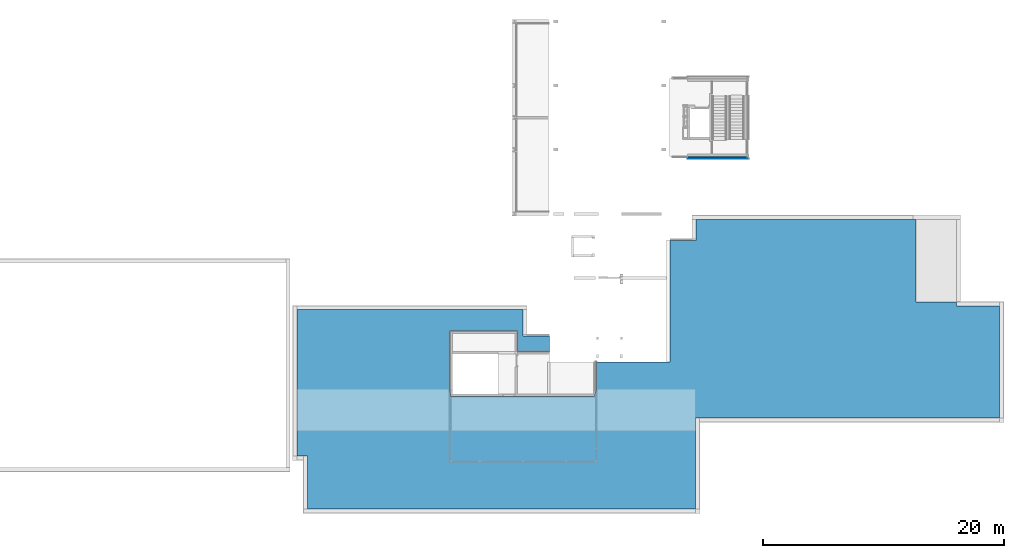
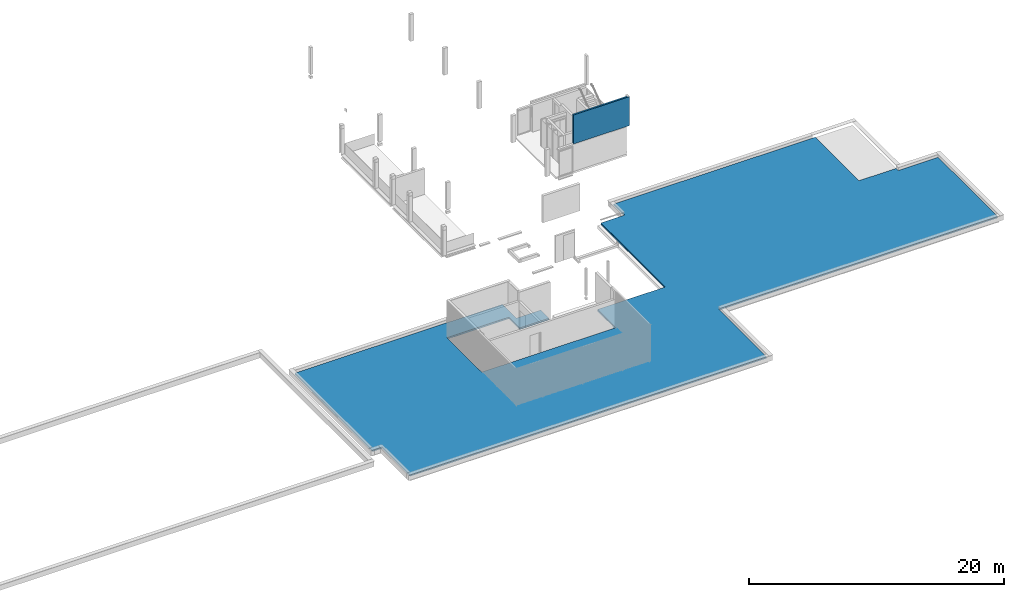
# One storey, part 9 of 22: 6 building element parts, 2 elements without a shape of their own.
"""IFC2X3 building model written with IfcOpenShell, lengths in millimetres."""

from ifc_helpers import new_model, entity, si_unit, converted_unit, derived_unit, money_unit, direction, frame, origin_with_axes, place, context, subcontext, project, spatial, faceted_brep, material, type_object, element, aggregate, save


model = new_model("IFC2X3")

# Units and contexts
model_context = context("Model", 3, precision=0.01, world=origin_with_axes(), true_north=direction((0.0, 1.0)))
body_context = subcontext(model_context, "Body", "Model", "MODEL_VIEW")
ifc_project = project(units=[si_unit("LENGTHUNIT", "METRE", prefix="MILLI"), si_unit("AREAUNIT", "SQUARE_METRE"), si_unit("VOLUMEUNIT", "CUBIC_METRE"), converted_unit("PLANEANGLEUNIT", "DEGREE", entity("IfcPlaneAngleMeasure", 0.0174532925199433), si_unit("PLANEANGLEUNIT", "RADIAN"), dimensions=[0, 0, 0, 0, 0, 0, 0]), money_unit("EUR"), converted_unit("TIMEUNIT", "Year", entity("IfcTimeMeasure", 31557600.0), si_unit("TIMEUNIT", "SECOND"), dimensions=[0, 0, 1, 0, 0, 0, 0]), si_unit("MASSUNIT", "GRAM", prefix="KILO"), si_unit("THERMODYNAMICTEMPERATUREUNIT", "DEGREE_CELSIUS"), si_unit("LUMINOUSINTENSITYUNIT", "LUMEN"), si_unit("ENERGYUNIT", "JOULE", prefix="MEGA"), derived_unit("THERMALCONDUCTANCEUNIT", [(si_unit("POWERUNIT", "WATT"), 1), (si_unit("LENGTHUNIT", "METRE"), -1), (si_unit("THERMODYNAMICTEMPERATUREUNIT", "KELVIN"), -1)]), derived_unit("SPECIFICHEATCAPACITYUNIT", [(si_unit("ENERGYUNIT", "JOULE"), 1), (si_unit("MASSUNIT", "GRAM", prefix="KILO"), -1), (si_unit("THERMODYNAMICTEMPERATUREUNIT", "KELVIN"), -1)]), derived_unit("MASSDENSITYUNIT", [(si_unit("MASSUNIT", "GRAM", prefix="KILO"), 1), (si_unit("VOLUMEUNIT", "CUBIC_METRE"), -1)])], contexts=[model_context])

# Site, building, storey
site_placement = place(None, origin_with_axes())
site = spatial("IfcSite", under=ifc_project, at=site_placement, Name="Site", CompositionType="ELEMENT")
building_placement = place(site_placement, origin_with_axes())
building = spatial("IfcBuilding", under=site, at=building_placement, Name="Naam gebouw", CompositionType="ELEMENT")
storey_placement = place(building_placement, frame((0.0, 0.0, 11150.0), z_axis=(0.0, 0.0, 1.0), x_axis=(1.0, 0.0, 0.0)))
storey = spatial("IfcBuildingStorey", under=building, at=storey_placement, Name="3e verdieping/dak N", CompositionType="ELEMENT", Elevation=11150.0)

# Slab, building element parts
slab_type = type_object("IfcSlabType", Name="Isolatie platdak 154", PredefinedType="NOTDEFINED")
slab_placement = place(storey_placement, frame((-770.0761052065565, 7835.77984223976, 153.9999999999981), z_axis=(0.0, 0.0, 1.0), x_axis=(1.0, 0.0, 0.0)))
slab = element("IfcSlab", 1, at=slab_placement, inside=storey, type_object=slab_type, Name="_Vloer-x", PredefinedType="NOTDEFINED")
ifc_material_1 = material(Name="Isolatie - Kunststof hard")
building_element_part_1_placement = place(slab_placement, origin_with_axes())
building_element_part_1 = element("IfcBuildingElementPart", 2, at=building_element_part_1_placement, material=ifc_material_1, Name="Isolatie - Kunststof hard", context=body_context, shape_type="Brep", body=[
    faceted_brep([(870.0761530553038, 0.0, -152.000000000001), (870.0761530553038, 0.0, -2.000000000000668), (0.0, 0.0, -2.000000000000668), (0.0, 0.0, -152.000000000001), (870.076153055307, -4389.86786879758, -152.000000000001), (870.076153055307, -4389.86786879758, -2.000000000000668), (22370.07610520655, -4389.86786879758, -2.000000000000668), (26185.07610633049, -4389.86786879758, -2.000000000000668), (33115.54636528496, -4389.86786879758, -2.000000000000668), (33115.54636528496, 1445.558531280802, -2.000000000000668), (33115.54636528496, 3155.132582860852, -2.000000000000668), (34080.42375593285, 3155.132582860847, -2.000000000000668), (58370.07610520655, 3155.132582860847, -2.000000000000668), (58370.07610520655, 12490.13258286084, -2.000000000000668), (54770.07610520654, 12490.13258286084, -2.000000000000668), (54770.07610520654, 12820.13258286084, -2.000000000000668), (51410.07610520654, 12820.13258286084, -2.000000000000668), (51410.07610520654, 19670.13258286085, -2.000000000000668), (33170.07610520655, 19670.13258286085, -2.000000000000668), (33170.07610520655, 17925.11718383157, -2.000000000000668), (32920.07610520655, 17925.11718383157, -2.000000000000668), (31006.07610520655, 17925.11718383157, -2.000000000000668), (31006.07610520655, 7835.132582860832, -2.000000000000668), (24870.01582028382, 7835.132582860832, -2.000000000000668), (24870.01582028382, 5454.338672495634, -2.000000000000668), (24645.01186344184, 4958.82819740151, -2.000000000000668), (12751.98655807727, 4958.828197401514, -2.000000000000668), (12727.81587903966, 5830.85009434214, -2.000000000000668), (12727.81587903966, 10380.13258286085, -2.000000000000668), (18327.81587903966, 10380.13258286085, -2.000000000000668), (18327.81587903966, 8680.132582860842, -2.000000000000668), (20976.07610520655, 8680.132582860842, -2.000000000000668), (20976.07610520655, 9988.971384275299, -2.000000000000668), (18770.07439202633, 9988.971384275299, -2.000000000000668), (18770.07439202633, 12160.03535665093, -2.000000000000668), (0.0, 12160.03535665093, -2.000000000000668), (0.0, 12160.03535665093, -152.000000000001), (18770.07439202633, 12160.03535665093, -152.000000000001), (18770.07439202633, 9988.971384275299, -152.000000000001), (20976.07610520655, 9988.971384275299, -152.000000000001), (20976.07610520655, 8680.132582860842, -152.000000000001), (18327.81587903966, 8680.132582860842, -152.000000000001), (18327.81587903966, 10380.13258286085, -152.000000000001), (12727.81587903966, 10380.13258286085, -152.000000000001), (12727.81587903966, 5830.85009434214, -152.000000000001), (12751.98655807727, 4958.828197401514, -152.000000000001), (24645.01186344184, 4958.82819740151, -152.000000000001), (24870.01582028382, 5454.338672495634, -152.000000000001), (24870.01582028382, 7835.132582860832, -152.000000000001), (31006.07610520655, 7835.132582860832, -152.000000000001), (31006.07610520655, 17925.11718383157, -152.000000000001), (32920.07610520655, 17925.11718383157, -152.000000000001), (33170.07610520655, 17925.11718383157, -152.000000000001), (33170.07610520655, 19670.13258286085, -152.000000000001), (51410.07610520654, 19670.13258286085, -152.000000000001), (51410.07610520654, 12820.13258286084, -152.000000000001), (54770.07610520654, 12820.13258286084, -152.000000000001), (54770.07610520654, 12490.13258286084, -152.000000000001), (58370.07610520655, 12490.13258286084, -152.000000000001), (58370.07610520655, 3155.132582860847, -152.000000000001), (34080.42375593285, 3155.132582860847, -152.000000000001), (33115.54636528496, 3155.132582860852, -152.000000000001), (33115.54636528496, 1445.558531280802, -152.000000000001), (33115.54636528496, -4389.86786879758, -152.000000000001), (26185.07610633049, -4389.86786879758, -152.000000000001), (22370.07610520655, -4389.86786879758, -152.000000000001)], [[[0, 1, 2, 3]], [[4, 5, 1, 0]], [[2, 1, 5, 6, 7, 8, 9, 10, 11, 12, 13, 14, 15, 16, 17, 18, 19, 20, 21, 22, 23, 24, 25, 26, 27, 28, 29, 30, 31, 32, 33, 34, 35]], [[3, 2, 35, 36]], [[3, 36, 37, 38, 39, 40, 41, 42, 43, 44, 45, 46, 47, 48, 49, 50, 51, 52, 53, 54, 55, 56, 57, 58, 59, 60, 61, 62, 63, 64, 65, 4, 0]], [[65, 6, 5, 4]], [[64, 7, 6, 65]], [[63, 8, 7, 64]], [[62, 9, 8, 63]], [[61, 10, 9, 62]], [[60, 11, 10, 61]], [[59, 12, 11, 60]], [[58, 13, 12, 59]], [[57, 14, 13, 58]], [[56, 15, 14, 57]], [[55, 16, 15, 56]], [[54, 17, 16, 55]], [[53, 18, 17, 54]], [[52, 19, 18, 53]], [[51, 20, 19, 52]], [[50, 21, 20, 51]], [[49, 22, 21, 50]], [[48, 23, 22, 49]], [[47, 24, 23, 48]], [[46, 25, 24, 47]], [[45, 26, 25, 46]], [[44, 27, 26, 45]], [[43, 28, 27, 44]], [[42, 29, 28, 43]], [[41, 30, 29, 42]], [[40, 31, 30, 41]], [[39, 32, 31, 40]], [[38, 33, 32, 39]], [[37, 34, 33, 38]], [[36, 35, 34, 37]]]),
])
ifc_material_2 = material(Name="Membraan - dampdicht")
building_element_part_2_placement = place(slab_placement, origin_with_axes())
building_element_part_2 = element("IfcBuildingElementPart", 3, at=building_element_part_2_placement, material=ifc_material_2, Name="Membraan - dampdicht", context=body_context, shape_type="Brep", body=[
    faceted_brep([(0.0, 0.0, -151.9999999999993), (0.0, 0.0, -153.9999999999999), (870.0761530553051, 0.0, -153.9999999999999), (870.0761530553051, 0.0, -151.9999999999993), (0.0, 12160.03535665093, -151.9999999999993), (0.0, 12160.03535665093, -153.9999999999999), (18770.07439202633, 12160.03535665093, -153.9999999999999), (18770.07439202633, 9988.971384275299, -153.9999999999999), (20976.07610520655, 9988.971384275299, -153.9999999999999), (20976.07610520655, 8680.132582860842, -153.9999999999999), (18327.81587903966, 8680.132582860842, -153.9999999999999), (18327.81587903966, 10380.13258286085, -153.9999999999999), (12727.81587903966, 10380.13258286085, -153.9999999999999), (12727.81587903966, 5830.850094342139, -153.9999999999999), (12751.98655807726, 4958.828197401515, -153.9999999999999), (24645.01186344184, 4958.828197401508, -153.9999999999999), (24870.01582028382, 5454.338672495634, -153.9999999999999), (24870.01582028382, 7835.132582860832, -153.9999999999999), (31006.07610520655, 7835.132582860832, -153.9999999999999), (31006.07610520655, 17925.11718383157, -153.9999999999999), (33170.07610520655, 17925.11718383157, -153.9999999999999), (33170.07610520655, 19670.13258286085, -153.9999999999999), (51410.07610520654, 19670.13258286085, -153.9999999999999), (51410.07610520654, 12820.13258286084, -153.9999999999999), (54770.07610520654, 12820.13258286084, -153.9999999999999), (54770.07610520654, 12490.13258286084, -153.9999999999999), (58370.07610520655, 12490.13258286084, -153.9999999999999), (58370.07610520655, 3155.132582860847, -153.9999999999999), (33115.54636528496, 3155.13258286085, -153.9999999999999), (33115.54636528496, -4389.867868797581, -153.9999999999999), (870.0761530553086, -4389.867868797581, -153.9999999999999), (870.0761530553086, -4389.867868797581, -151.9999999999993), (33115.54636528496, -4389.867868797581, -151.9999999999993), (33115.54636528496, 3155.13258286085, -151.9999999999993), (58370.07610520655, 3155.132582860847, -151.9999999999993), (58370.07610520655, 12490.13258286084, -151.9999999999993), (54770.07610520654, 12490.13258286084, -151.9999999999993), (54770.07610520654, 12820.13258286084, -151.9999999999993), (51410.07610520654, 12820.13258286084, -151.9999999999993), (51410.07610520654, 19670.13258286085, -151.9999999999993), (33170.07610520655, 19670.13258286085, -151.9999999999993), (33170.07610520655, 17925.11718383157, -151.9999999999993), (31006.07610520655, 17925.11718383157, -151.9999999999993), (31006.07610520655, 7835.132582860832, -151.9999999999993), (24870.01582028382, 7835.132582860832, -151.9999999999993), (24870.01582028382, 5454.338672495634, -151.9999999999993), (24645.01186344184, 4958.828197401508, -151.9999999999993), (12751.98655807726, 4958.828197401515, -151.9999999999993), (12727.81587903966, 5830.850094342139, -151.9999999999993), (12727.81587903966, 10380.13258286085, -151.9999999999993), (18327.81587903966, 10380.13258286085, -151.9999999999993), (18327.81587903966, 8680.132582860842, -151.9999999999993), (20976.07610520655, 8680.132582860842, -151.9999999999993), (20976.07610520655, 9988.971384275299, -151.9999999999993), (18770.07439202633, 9988.971384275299, -151.9999999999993), (18770.07439202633, 12160.03535665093, -151.9999999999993)], [[[0, 1, 2, 3]], [[4, 5, 1, 0]], [[2, 1, 5, 6, 7, 8, 9, 10, 11, 12, 13, 14, 15, 16, 17, 18, 19, 20, 21, 22, 23, 24, 25, 26, 27, 28, 29, 30]], [[3, 2, 30, 31]], [[4, 0, 3, 31, 32, 33, 34, 35, 36, 37, 38, 39, 40, 41, 42, 43, 44, 45, 46, 47, 48, 49, 50, 51, 52, 53, 54, 55]], [[55, 6, 5, 4]], [[54, 7, 6, 55]], [[53, 8, 7, 54]], [[52, 9, 8, 53]], [[51, 10, 9, 52]], [[50, 11, 10, 51]], [[49, 12, 11, 50]], [[48, 13, 12, 49]], [[47, 14, 13, 48]], [[46, 15, 14, 47]], [[45, 16, 15, 46]], [[44, 17, 16, 45]], [[43, 18, 17, 44]], [[42, 19, 18, 43]], [[41, 20, 19, 42]], [[40, 21, 20, 41]], [[39, 22, 21, 40]], [[38, 23, 22, 39]], [[37, 24, 23, 38]], [[36, 25, 24, 37]], [[35, 26, 25, 36]], [[34, 27, 26, 35]], [[33, 28, 27, 34]], [[32, 29, 28, 33]], [[31, 30, 29, 32]]]),
])
ifc_material_3 = material(Name="Membraan - waterdicht")
building_element_part_3_placement = place(slab_placement, origin_with_axes())
building_element_part_3 = element("IfcBuildingElementPart", 4, at=building_element_part_3_placement, material=ifc_material_3, Name="Membraan - waterdicht", context=body_context, shape_type="Brep", body=[
    faceted_brep([(24870.00477702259, 5454.314352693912, -2.000000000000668), (24870.00477702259, 5454.314352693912, 0.0), (24870.01582028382, 5454.338672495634, 0.0), (24870.01582028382, 5454.338672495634, -2.000000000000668), (24868.87212425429, 5321.1197570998, 0.0), (24868.87212425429, 5321.1197570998, -2.000000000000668), (24845.55767152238, 4955.638408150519, 0.0), (24810.70332825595, 4958.828197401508, 0.0), (24645.01186344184, 4958.828197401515, 0.0), (12751.99287813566, 4958.828197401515, 0.0), (12741.207236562, 5077.336347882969, 0.0), (12728.82705641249, 5328.033883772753, 0.0), (12727.8222887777, 5453.531378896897, 0.0), (12727.81587903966, 5454.338672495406, 0.0), (12727.81587903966, 5830.850094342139, 0.0), (12727.81587903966, 10380.13258286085, 0.0), (18327.81587903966, 10380.13258286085, 0.0), (18327.81587903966, 8680.132582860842, 0.0), (20976.07610520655, 8680.132582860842, 0.0), (20976.07610520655, 9988.971384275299, 0.0), (18770.07439202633, 9988.971384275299, 0.0), (18770.07439202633, 12160.03535665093, 0.0), (0.0, 12160.03535665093, 0.0), (0.0, 0.0, 0.0), (870.0761530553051, 0.0, 0.0), (870.0761530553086, -4389.867868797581, 0.0), (33115.54636528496, -4389.867868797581, 0.0), (33115.54636528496, 3155.13258286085, 0.0), (58370.07610520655, 3155.132582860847, 0.0), (58370.07610520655, 12490.13258286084, 0.0), (54770.07610520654, 12490.13258286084, 0.0), (54770.07610520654, 12820.13258286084, 0.0), (51410.07610520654, 12820.13258286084, 0.0), (51410.07610520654, 19670.13258286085, 0.0), (33170.07610520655, 19670.13258286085, 0.0), (33170.07610520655, 17925.11718383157, 0.0), (31006.07610520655, 17925.11718383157, 0.0), (31006.07610520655, 7835.132582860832, 0.0), (24870.01582028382, 7835.132582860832, 0.0), (24856.68528965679, 5077.228203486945, 0.0), (24870.01582028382, 7835.132582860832, -2.000000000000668), (31006.07610520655, 7835.132582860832, -2.000000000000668), (31006.07610520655, 17925.11718383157, -2.000000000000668), (33170.07610520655, 17925.11718383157, -2.000000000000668), (33170.07610520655, 19670.13258286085, -2.000000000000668), (51410.07610520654, 19670.13258286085, -2.000000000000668), (51410.07610520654, 12820.13258286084, -2.000000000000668), (54770.07610520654, 12820.13258286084, -2.000000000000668), (54770.07610520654, 12490.13258286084, -2.000000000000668), (58370.07610520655, 12490.13258286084, -2.000000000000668), (58370.07610520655, 3155.132582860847, -2.000000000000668), (33115.54636528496, 3155.13258286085, -2.000000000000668), (33115.54636528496, -4389.867868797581, -2.000000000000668), (870.0761530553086, -4389.867868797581, -2.000000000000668), (870.0761530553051, 0.0, -2.000000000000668), (0.0, 0.0, -2.000000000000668), (0.0, 12160.03535665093, -2.000000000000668), (18770.07439202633, 12160.03535665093, -2.000000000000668), (18770.07439202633, 9988.971384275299, -2.000000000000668), (20976.07610520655, 9988.971384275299, -2.000000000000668), (20976.07610520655, 8680.132582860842, -2.000000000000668), (18327.81587903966, 8680.132582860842, -2.000000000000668), (18327.81587903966, 10380.13258286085, -2.000000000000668), (12727.81587903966, 10380.13258286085, -2.000000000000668), (12727.81587903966, 5830.850094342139, -2.000000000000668), (12727.81587903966, 5454.338672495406, -2.000000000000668), (12727.8222887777, 5453.531378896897, -2.000000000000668), (12728.82705641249, 5328.033883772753, -2.000000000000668), (12741.207236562, 5077.336347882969, -2.000000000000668), (12751.99287813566, 4958.828197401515, -2.000000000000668), (24645.01186344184, 4958.828197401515, -2.000000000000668), (24810.70332825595, 4958.828197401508, -2.000000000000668), (24845.55767152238, 4955.638408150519, -2.000000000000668), (24856.68528965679, 5077.228203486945, -2.000000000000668)], [[[0, 1, 2, 3]], [[4, 1, 0, 5]], [[6, 7, 8, 9, 10, 11, 12, 13, 14, 15, 16, 17, 18, 19, 20, 21, 22, 23, 24, 25, 26, 27, 28, 29, 30, 31, 32, 33, 34, 35, 36, 37, 38, 2, 1, 4, 39]], [[38, 40, 3, 2]], [[5, 0, 3, 40, 41, 42, 43, 44, 45, 46, 47, 48, 49, 50, 51, 52, 53, 54, 55, 56, 57, 58, 59, 60, 61, 62, 63, 64, 65, 66, 67, 68, 69, 70, 71, 72, 73]], [[39, 4, 5, 73]], [[7, 6, 72, 71]], [[71, 70, 8, 7]], [[69, 9, 8, 70]], [[9, 69, 68, 10]], [[10, 68, 67, 11]], [[11, 67, 66, 12]], [[66, 65, 13, 12]], [[65, 64, 14, 13]], [[15, 14, 64, 63]], [[15, 63, 62, 16]], [[16, 62, 61, 17]], [[17, 61, 60, 18]], [[18, 60, 59, 19]], [[19, 59, 58, 20]], [[20, 58, 57, 21]], [[21, 57, 56, 22]], [[22, 56, 55, 23]], [[23, 55, 54, 24]], [[24, 54, 53, 25]], [[25, 53, 52, 26]], [[26, 52, 51, 27]], [[27, 51, 50, 28]], [[28, 50, 49, 29]], [[29, 49, 48, 30]], [[30, 48, 47, 31]], [[31, 47, 46, 32]], [[32, 46, 45, 33]], [[33, 45, 44, 34]], [[34, 44, 43, 35]], [[35, 43, 42, 36]], [[36, 42, 41, 37]], [[37, 41, 40, 38]], [[6, 39, 73, 72]]]),
    faceted_brep([(24832.52135951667, 5294.961197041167, -2.000000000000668), (24832.52135951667, 5294.961197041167, 0.0), (24821.7650092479, 5079.697507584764, 0.0), (24821.7650092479, 5079.697507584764, -2.000000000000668), (24821.07324310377, 5072.138683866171, 0.0), (24821.07324310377, 5072.138683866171, -2.000000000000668)], [[[0, 1, 2, 3]], [[4, 1, 0, 5]], [[1, 4, 2]], [[4, 5, 3, 2]], [[5, 0, 3]]]),
    faceted_brep([(24834.2349625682, 5375.540992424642, -2.000000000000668), (24834.2349625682, 5375.540992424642, 0.0), (24834.33559019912, 5375.762597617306, 0.0), (24834.33559019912, 5375.762597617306, -2.000000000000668), (24833.66287715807, 5317.806055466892, 0.0), (24833.66287715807, 5317.806055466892, -2.000000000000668), (24833.8796302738, 5322.143872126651, 0.0), (24833.8796302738, 5322.143872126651, -2.000000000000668)], [[[0, 1, 2, 3]], [[4, 1, 0, 5]], [[1, 4, 6, 2]], [[7, 3, 2, 6]], [[5, 0, 3, 7]], [[4, 5, 7, 6]]]),
])
aggregate(slab, [building_element_part_1, building_element_part_2, building_element_part_3])

# Wall, building element parts
wall_type = type_object("IfcWallType", Name="Basic Wall:41_WA_stucwerk op iso 170mm", PredefinedType="STANDARD")
wall_placement = place(storey_placement, frame((31685.01028266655, 32626.41242629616, 3080.000000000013), z_axis=(0.0, 0.0, 1.0), x_axis=(1.0, 0.0, 0.0)))
wall = element("IfcWall", 5, at=wall_placement, inside=storey, type_object=wall_type, Name="Basic Wall:41_WA_stucwerk op iso 170mm")
ifc_material_4 = material(Name="stucwerk - gevel gebouw V RAL 7044")
building_element_part_4_placement = place(wall_placement, origin_with_axes())
building_element_part_4 = element("IfcBuildingElementPart", 6, at=building_element_part_4_placement, material=ifc_material_4, Name="stucwerk - gevel gebouw V RAL 7044", context=body_context, shape_type="Brep", body=[
    faceted_brep([(5054.989717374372, -84.49999992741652, 0.0), (9.876544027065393e-10, -84.49999998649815, 0.0), (8.704148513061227e-10, -74.49999998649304, 0.0), (5054.989717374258, -74.49999992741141, 0.0), (5054.989717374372, -84.49999992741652, 2770.000000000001), (9.876544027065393e-10, -84.49999998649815, 2770.000000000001), (8.704148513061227e-10, -74.49999998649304, 2770.000000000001), (5054.989717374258, -74.49999992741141, 2770.000000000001)], [[[0, 1, 2, 3]], [[4, 5, 1, 0]], [[2, 1, 5, 6]], [[3, 2, 6, 7]], [[3, 7, 4, 0]], [[7, 6, 5, 4]]]),
])
ifc_material_5 = material(Name="isolatie_080_1-100")
building_element_part_5_placement = place(wall_placement, origin_with_axes())
building_element_part_5 = element("IfcBuildingElementPart", 7, at=building_element_part_5_placement, material=ifc_material_5, Name="isolatie_080_1-100", context=body_context, shape_type="Brep", body=[
    faceted_brep([(4894.989717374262, -74.49999992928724, 0.0), (8.704148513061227e-10, -74.49999998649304, 0.0), (-9.983125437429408e-10, 85.50000001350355, 0.0), (4894.989717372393, 85.50000007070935, 0.0), (4894.989717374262, -74.49999992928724, 2770.000000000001), (8.704148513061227e-10, -74.49999998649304, 2770.000000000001), (-9.983125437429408e-10, 85.50000001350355, 2770.000000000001), (4894.989717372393, 85.50000007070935, 2770.000000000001)], [[[0, 1, 2, 3]], [[4, 5, 1, 0]], [[2, 1, 5, 6]], [[3, 2, 6, 7]], [[3, 7, 4, 0]], [[7, 6, 5, 4]]]),
])
ifc_material_6 = material(Name="Verflaag ral 7044  Zijdengrijs Isostuc")
building_element_part_6_placement = place(wall_placement, origin_with_axes())
building_element_part_6 = element("IfcBuildingElementPart", 8, at=building_element_part_6_placement, material=ifc_material_6, Name="Verflaag ral 7044  Zijdengrijs Isostuc", context=body_context, shape_type="Brep", body=[
    faceted_brep([(5064.989717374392, -85.49999992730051, 0.0), (9.983125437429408e-10, -85.49999998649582, 0.0), (9.876544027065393e-10, -84.49999998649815, 0.0), (5064.989717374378, -84.49999992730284, 0.0), (5064.989717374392, -85.49999992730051, 2770.000000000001), (9.983125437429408e-10, -85.49999998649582, 2770.000000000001), (9.876544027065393e-10, -84.49999998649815, 2770.000000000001), (5064.989717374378, -84.49999992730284, 2770.000000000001)], [[[0, 1, 2, 3]], [[4, 5, 1, 0]], [[2, 1, 5, 6]], [[3, 2, 6, 7]], [[3, 7, 4, 0]], [[7, 6, 5, 4]]]),
])
aggregate(wall, [building_element_part_4, building_element_part_5, building_element_part_6])

save(model, "model.ifc")
